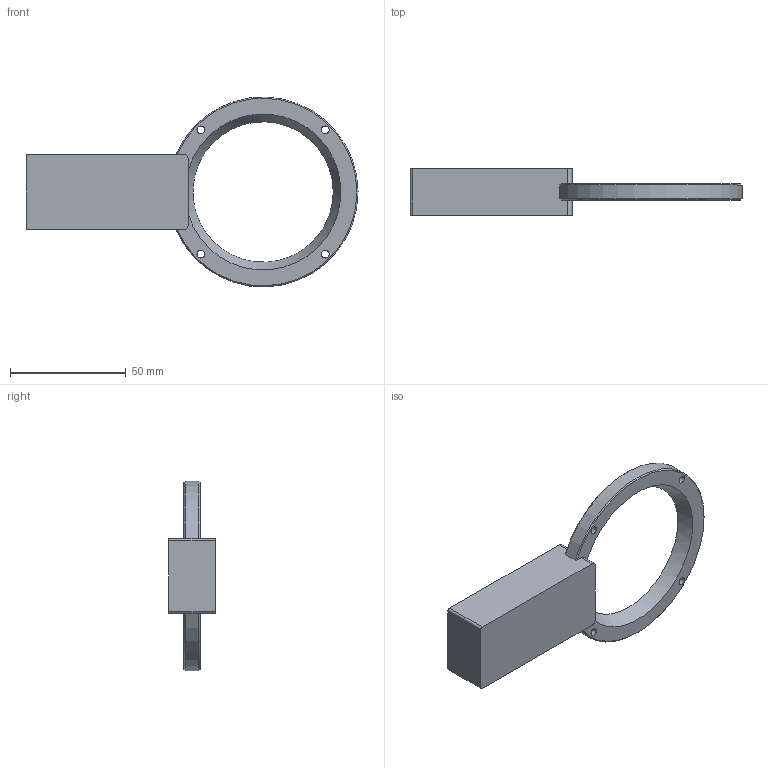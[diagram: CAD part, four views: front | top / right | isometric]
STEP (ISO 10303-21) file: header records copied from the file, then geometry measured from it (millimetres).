
FILE_DESCRIPTION (( 'STEP AP214' ), '1' );
FILE_NAME ('LRLA-76-WH.STEP', '2026-02-04T07:29:41', ( '' ), ( '' ), 'SwSTEP 2.0', 'SolidWorks 2022', '' );
FILE_SCHEMA (( 'AUTOMOTIVE_DESIGN' ));
Length unit declared in the file: millimetre
Products named in the file (1): LRLA-76-WH
Bounding box: 143.34 x 20 x 81.96 mm (x, y, z)
Volume: 57860.6 mm3; surface area: 15365 mm2
Topology: 1 solids, 1 shells, 153 faces, 400 edges, 263 vertices
Faces by surface type: plane 136, cylinder 13, cone 4
Full cylindrical faces by diameter (mm): 3.3 x4
Entity records: 5921 total; most frequent: CARTESIAN_POINT 837, ORIENTED_EDGE 784, DIRECTION 725, EDGE_CURVE 392, VECTOR 355, LINE 355, VERTEX_POINT 261, EDGE_LOOP 185
